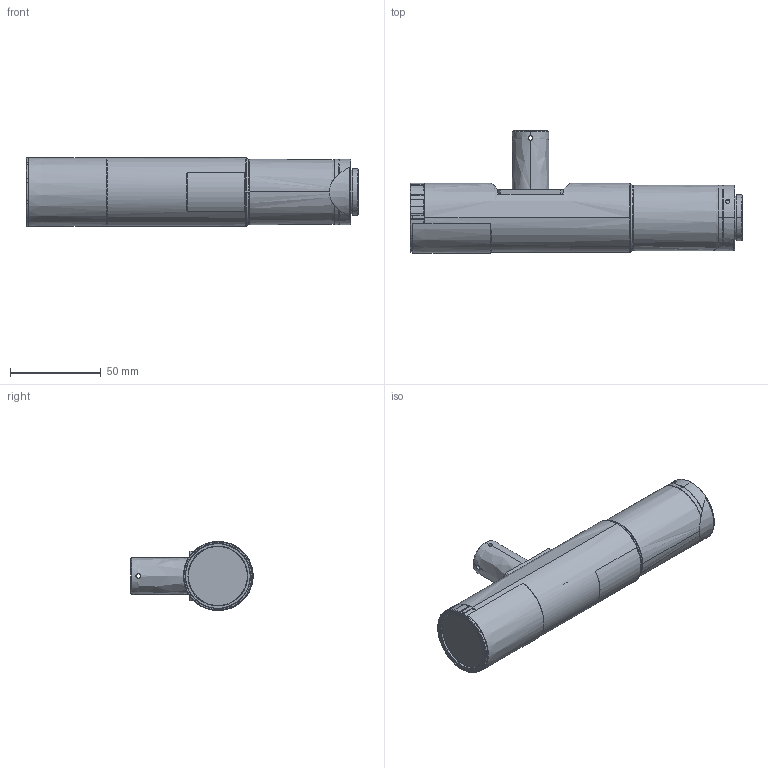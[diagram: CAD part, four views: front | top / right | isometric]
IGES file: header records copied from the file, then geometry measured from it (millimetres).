
Start section: SolidWorks IGES file using analytic representation for surfaces
Global section: file name: E:\图纸\镜头\DTCA\DTCA121\DTCA121-10C （2倍）\A4.0\发加工3D\DTCA121-10C.IGS; native system: SolidWorks 2017; preprocessor: SolidWorks 2017; author: gc; date: 240116.093116; units: millimetre
Bounding box: 182.89 x 67.34 x 38 mm (x, y, z)
Surface area: 30457.7 mm2 (no closed solid volume)
Topology: 0 solids, 0 shells, 299 faces, 4307 edges, 4307 vertices
Faces by surface type: revolution 220, bspline 79
